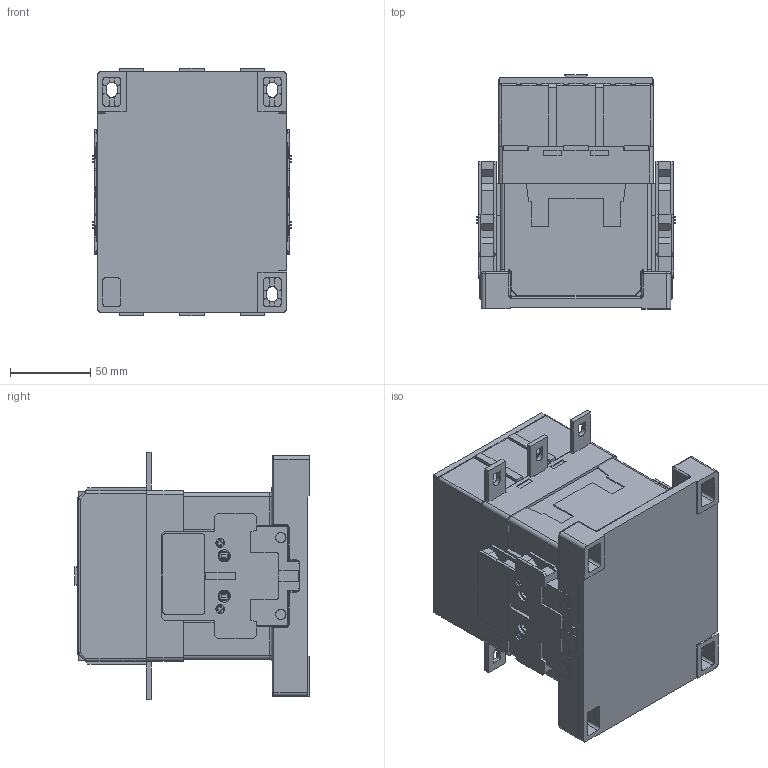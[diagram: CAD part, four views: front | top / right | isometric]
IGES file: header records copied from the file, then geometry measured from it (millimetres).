
Start section: SolidWorks IGES file using analytic representation for surfaces
Global section: file name: Q:\GROUPS\BR_SC_JGS_WA_TECNICO\ENG\Usuarios\Rodrigob\conversão\contatores\Produto\CWM112\CWM112.IGS; native system: SolidWorks 2012; preprocessor: SolidWorks 2012; author: rodrigob; date: 140529.072046; units: millimetre
Bounding box: 124.2 x 146 x 154 mm (x, y, z)
Surface area: 198244.8 mm2 (no closed solid volume)
Topology: 0 solids, 0 shells, 2107 faces, 20683 edges, 20681 vertices
Faces by surface type: bspline 1403, revolution 704
